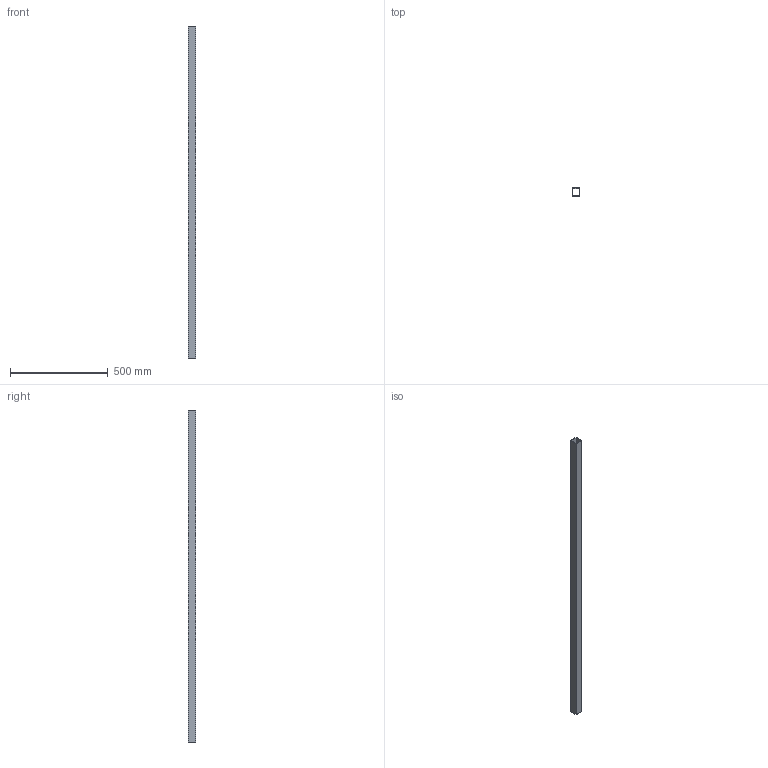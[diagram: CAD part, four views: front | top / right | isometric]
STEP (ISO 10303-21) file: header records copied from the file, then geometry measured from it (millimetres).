
FILE_DESCRIPTION(('Open CASCADE Model'),'2;1');
FILE_NAME('Open CASCADE Shape Model','2026-10-15T15:10:04',('Author'),( 'Open CASCADE'),'Open CASCADE STEP processor 8.0','Open CASCADE 8.0' ,'Unknown');
FILE_SCHEMA(('AUTOMOTIVE_DESIGN { 1 0 10303 214 1 1 1 1 }'));
Length unit declared in the file: millimetre
Products named in the file (1): SHS40x40x3_L1700000_P05 24
Bounding box: 40 x 40 x 1700 mm (x, y, z)
Volume: 754800 mm3; surface area: 504088 mm2
Topology: 1 solids, 1 shells, 10 faces, 24 edges, 16 vertices
Faces by surface type: plane 10
Entity records: 614 total; most frequent: CARTESIAN_POINT 99, DIRECTION 94, LINE 72, VECTOR 72, ORIENTED_EDGE 48, PCURVE 48, DEFINITIONAL_REPRESENTATION 48, EDGE_CURVE 24
